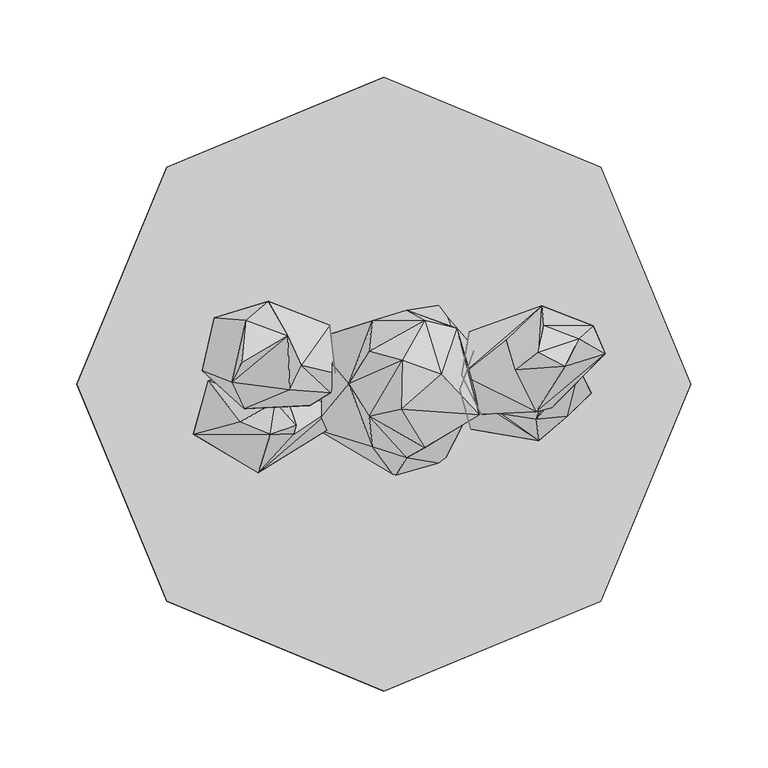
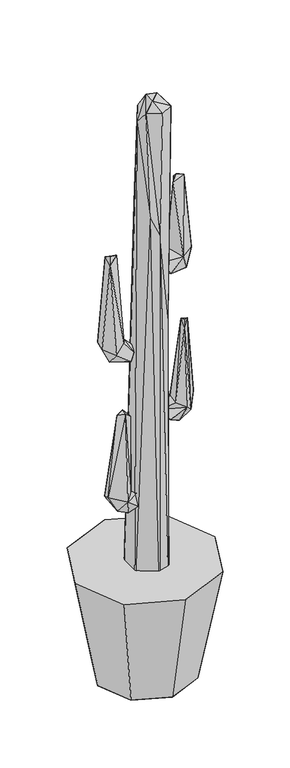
"""IFC4 building model written with IfcOpenShell, lengths in millimetres: geographic element geometry, Enscape AssetDefinition - Potted Plant 002 Cactus : Enscape AssetDefinition - Potted Plant 002 Cactus."""

from ifc_helpers import new_model, si_unit, origin, place, context, project, spatial, triangles, source, transform, mapped, element, save


def geographic_element_eaedea96(model_context):
    return source(origin(), model_context, "Body", "Tessellation", [
        triangles([(26.5874147, -41.4846453, 1695.1274906), (14.8332311, -48.0367527, 1335.7680302), (52.2988199, -24.514383, 1058.1894791), (69.3120801, 15.9832495, 201.7071466), (38.5155996, -51.8068123, 201.7021687), (38.5155996, 51.8068123, 201.7021687), (14.8312304, 48.0357535, 1335.697831), (47.3887408, 36.0265642, 1692.3234467), (62.2689735, -20.255318, 1694.178566), (58.3839091, 0.0, 1018.3509951), (37.5565852, 6.3170989, 1726.6579788), (26.5864132, 41.4836461, 1695.1264732), (-9.565149, 21.2023305, 1696.1044659), (-7.494117, 41.0456414, 1389.291798), (-22.7833568, 0.0, 1662.6940052), (-9.5641487, -21.203332, 1696.1054832), (12.0061883, 15.4162408, 1724.4459045), (11.5411799, -16.5512585, 1723.3539654), (-7.4911171, -41.0466406, 1389.3617065), (-46.4107255, 28.8484503, 201.7441538), (7.2311129, -60.6889464, 201.7221529), (-46.4107255, -28.8484503, 201.7441538), (-75.3201754, 53.7238419, 991.3215403), (-89.9514045, 41.5676481, 1254.4376747), (-62.5099744, 31.4314935, 1254.9075588), (-92.421439, 13.8532162, 1271.0058495), (-61.3459557, -3.6300567, 1010.7888113), (-99.0865482, 1.0090158, 1254.4376747), (-90.9624165, -16.1712524, 990.8644461), (-118.2178477, 8.5211329, 1002.7186644), (-98.9255478, 4.7710745, 961.0999838), (-48.0927494, -14.0192195, 956.1619131), (-34.3845382, -5.5730871, 975.1941816), (-37.4385828, 33.2835198, 956.1619131), (-91.3834301, 38.0725943, 961.068009), (-110.3817254, 43.0936723, 1002.2466002), (-35.2025524, 38.191596, 981.2382895), (-31.5294935, 7.1011109, 962.2020241), (-53.646839, 12.1211896, 1012.0728172), (-31.5294935, 7.1011109, 988.1864119), (99.1295506, -18.1822829, 1223.7270493), (85.4393434, 9.1861438, 1437.4715607), (79.6872417, 28.8974503, 1230.3632721), (109.4827159, -15.4752409, 1187.578529), (118.0628426, 11.3491767, 1448.5384724), (100.7125754, 20.6043224, 1449.9878025), (50.6457913, 6.0560944, 1207.5709133), (102.7466082, 50.7627945, 1211.0229555), (126.7919882, 29.37246, 1432.7693768), (144.1882556, 19.7043092, 1215.6989782), (136.2451358, 37.8495906, 1217.6309824), (104.2716241, 38.2335947, 1432.956284), (111.1757358, 31.9874984, 1177.6523907), (50.6457913, 6.0560944, 1180.3023743), (55.526866, 33.8345286, 1185.4385433), (93.1204516, 13.5722128, 1165.4891796), (63.4869951, -19.7473071, 1185.7704998), (76.4611941, -19.3773033, 791.6283514), (119.4868654, -21.1073281, 757.6788975), (99.3595511, -23.0683594, 1013.4898092), (106.1666574, -10.7991682, 1028.8040634), (78.8062272, 11.9131866, 794.0553835), (49.5737773, -3.2730512, 771.1870846), (112.0337502, 16.3952554, 1013.0188351), (117.9768377, 22.9843574, 774.3651609), (127.2249832, 9.9151549, 1013.4478786), (135.0061035, -6.0530945, 800.1704899), (49.5737773, -3.2730512, 746.0576591), (58.5319151, 21.6843391, 764.2269716), (119.2788658, 11.0641729, 756.3657509), (83.644304, -26.2234107, 740.1355642), (57.3208925, 13.0462036, 739.3915689), (56.5618818, -29.2714578, 753.5367811), (100.8795801, -36.8105779, 779.524221), (-32.5445092, -15.2522383, 554.2785948), (-81.8472843, -57.8179053, 570.2748931), (-67.7950624, -35.2085522, 519.1660941), (-58.6199139, -32.5155117, 579.8870971), (-36.5505692, -29.8094654, 524.495202), (-123.9069445, -32.5025105, 582.5641139), (-114.4077968, 2.0530322, 562.3327543), (-103.560621, -44.3386953, 541.4684392), (-35.8405608, -2.6860418, 531.7762982), (-37.0465782, 1.91403, 549.5235798), (-82.2942774, 9.7861532, 573.7009558), (-71.5281149, 14.7082308, 536.4923621), (-93.3484627, -24.4863824, 816.4017666), (-70.6641006, -11.869186, 817.178754), (-75.8901852, -19.9073105, 515.5470926), (-73.9571545, -32.7755112, 817.6947836), (-63.5329952, -7.5231174, 607.7324904), (-56.869889, -26.7314193, 801.9375332), (135.5391106, 0.0, 0.0), (0.0, 0.0, 0.0), (95.8404981, -95.8404981, 0.0), (0.0, 199.7951267, 332.0932105), (95.8404981, 95.8404981, 0.0), (141.276215, 141.276215, 332.0932105), (199.7951267, 0.0, 332.0932105), (141.276215, -141.276215, 332.0932105), (0.0, -135.5391106, 0.0), (0.0, -199.7951267, 332.0932105), (0.0, 0.0, 332.0932105), (-141.276215, 141.276215, 332.0932105), (0.0, 135.5391106, 0.0), (-199.7951267, 0.0, 332.0932105), (-135.5391106, 0.0, 0.0), (-95.8404981, 95.8404981, 0.0), (-141.276215, -141.276215, 332.0932105), (-95.8404981, -95.8404981, 0.0)], [[110, 107, 94], [101, 110, 94], [110, 101, 102], [110, 102, 109], [107, 110, 109], [107, 109, 106], [107, 108, 94], [108, 107, 106], [108, 105, 94], [108, 106, 104], [105, 108, 104], [105, 104, 96], [109, 102, 103], [106, 109, 103], [104, 106, 103], [96, 104, 103], [102, 100, 103], [101, 100, 102], [95, 101, 94], [101, 95, 100], [100, 99, 103], [95, 99, 100], [98, 96, 103], [99, 98, 103], [105, 97, 94], [97, 96, 98], [97, 105, 96], [93, 95, 94], [97, 93, 94], [95, 93, 99], [93, 98, 99], [93, 97, 98], [83, 86, 84], [83, 89, 86], [78, 92, 90], [91, 92, 78], [88, 92, 91], [88, 90, 92], [87, 90, 88], [89, 81, 86], [87, 88, 81], [84, 86, 85], [86, 81, 85], [91, 78, 85], [88, 85, 81], [88, 91, 85], [84, 85, 75], [85, 78, 75], [79, 83, 75], [77, 83, 79], [77, 89, 83], [82, 89, 77], [89, 82, 81], [80, 90, 87], [80, 81, 82], [87, 81, 80], [76, 77, 79], [78, 90, 76], [78, 76, 75], [76, 82, 77], [76, 79, 75], [76, 80, 82], [76, 90, 80], [73, 74, 63], [68, 73, 63], [68, 71, 73], [71, 74, 73], [72, 71, 68], [72, 70, 71], [63, 69, 68], [69, 72, 68], [62, 69, 63], [72, 65, 70], [62, 65, 69], [65, 72, 69], [65, 67, 70], [71, 59, 74], [67, 59, 70], [71, 70, 59], [65, 66, 67], [66, 59, 67], [61, 66, 64], [64, 66, 65], [62, 64, 65], [58, 62, 63], [58, 64, 62], [74, 58, 63], [61, 60, 66], [60, 61, 64], [60, 74, 59], [66, 60, 59], [60, 64, 58], [60, 58, 74], [56, 44, 57], [57, 47, 54], [56, 57, 54], [55, 54, 47], [53, 54, 55], [53, 44, 56], [53, 56, 54], [53, 50, 44], [53, 51, 50], [48, 51, 53], [48, 55, 47], [48, 53, 55], [52, 51, 48], [52, 49, 51], [49, 50, 51], [50, 49, 45], [52, 46, 49], [49, 46, 45], [46, 52, 48], [43, 48, 47], [46, 48, 43], [42, 46, 43], [42, 45, 46], [57, 41, 47], [50, 41, 44], [45, 42, 41], [44, 41, 57], [50, 45, 41], [41, 43, 47], [41, 42, 43], [37, 23, 39], [37, 39, 40], [38, 37, 40], [38, 34, 37], [34, 23, 37], [36, 23, 35], [34, 35, 23], [31, 35, 34], [32, 34, 38], [31, 34, 32], [33, 32, 38], [39, 33, 40], [29, 31, 32], [29, 32, 33], [29, 30, 31], [31, 30, 35], [30, 36, 35], [24, 23, 36], [24, 36, 30], [26, 24, 28], [29, 28, 30], [30, 28, 24], [39, 27, 33], [27, 29, 33], [27, 28, 29], [39, 25, 27], [26, 28, 25], [24, 26, 25], [24, 25, 23], [27, 25, 28], [25, 39, 23], [21, 2, 19], [21, 19, 22], [22, 15, 20], [22, 19, 15], [2, 16, 19], [19, 16, 15], [2, 1, 16], [1, 18, 16], [9, 18, 1], [9, 11, 18], [16, 18, 17], [16, 17, 15], [18, 11, 17], [13, 15, 17], [14, 15, 13], [6, 20, 14], [20, 15, 14], [13, 17, 12], [12, 17, 11], [14, 13, 12], [12, 11, 8], [8, 11, 9], [7, 12, 8], [7, 14, 12], [6, 14, 7], [6, 10, 4], [10, 8, 9], [10, 6, 7], [10, 7, 8], [5, 2, 21], [5, 4, 10], [5, 10, 3], [10, 9, 3], [3, 9, 1], [3, 1, 2], [3, 2, 5]], closed=False),
    ])


if __name__ == "__main__":
    model = new_model("IFC4")
    model_context = context("Model", 3, world=origin())
    ifc_project = project(units=[si_unit("LENGTHUNIT", "METRE", prefix="MILLI")], contexts=[model_context])
    site = spatial("IfcSite", under=ifc_project)
    building = spatial("IfcBuilding", under=site)
    placement = place(None, origin())
    geographic_element_shape = geographic_element_eaedea96(model_context)
    element("IfcGeographicElement", 1, ObjectType="Enscape AssetDefinition - Potted Plant 002 Cactus : Enscape AssetDefinition - Potted Plant 002 Cactus", at=placement, inside=building, context=model_context, shape_type="MappedRepresentation", body=[
        mapped(geographic_element_shape, transform((0.0, 0.0, 0.0), x_axis=(1.0, 0.0, 0.0), y_axis=(0.0, 1.0, 0.0), z_axis=(0.0, 0.0, 1.0))),
    ])
    save(model, "model.ifc")
